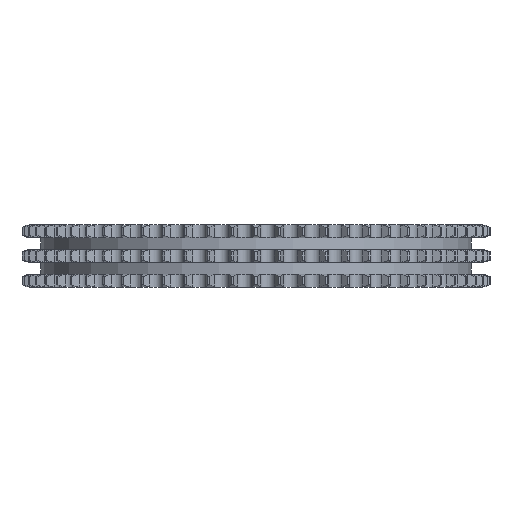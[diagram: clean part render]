
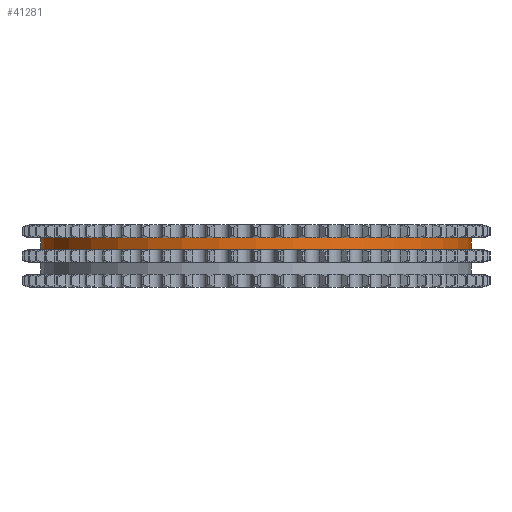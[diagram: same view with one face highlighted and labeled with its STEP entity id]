
A CAD part, left-side view. The second image highlights one B-rep face of the part: STEP entity #41281.
In plain terms, the highlighted cylindrical face has radius 88.029 mm (diameter 176.058 mm), a partial arc.
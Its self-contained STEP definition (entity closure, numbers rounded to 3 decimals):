
#7673=DIRECTION('',(0.,0.,-1.));
#7674=VECTOR('',#7673,4.85);
#7675=CARTESIAN_POINT('',(0.,88.029,7.5));
#7676=LINE('',#7675,#7674);
#7680=CARTESIAN_POINT('',(0.,0.,7.5));
#7681=DIRECTION('',(0.,0.,1.));
#7682=DIRECTION('',(0.,1.,0.));
#7683=AXIS2_PLACEMENT_3D('',#7680,#7681,#7682);
#7688=DIRECTION('',(0.,0.,-1.));
#7689=VECTOR('',#7688,4.85);
#7690=CARTESIAN_POINT('',(0.,-88.029,7.5));
#7691=LINE('',#7690,#7689);
#7695=CARTESIAN_POINT('',(0.,0.,2.65));
#7696=DIRECTION('',(0.,0.,1.));
#7697=DIRECTION('',(0.,1.,0.));
#7698=AXIS2_PLACEMENT_3D('',#7695,#7696,#7697);
#33318=CARTESIAN_POINT('',(0.,88.029,7.5));
#33319=CARTESIAN_POINT('',(0.,88.029,2.65));
#33320=VERTEX_POINT('',#33318);
#33321=VERTEX_POINT('',#33319);
#33322=CARTESIAN_POINT('',(0.,-88.029,7.5));
#33323=CARTESIAN_POINT('',(0.,-88.029,2.65));
#33324=VERTEX_POINT('',#33322);
#33325=VERTEX_POINT('',#33323);
#41269=CARTESIAN_POINT('',(0.,0.,8.25));
#41270=DIRECTION('',(0.,0.,-1.));
#41271=DIRECTION('',(0.,-1.,0.));
#41272=AXIS2_PLACEMENT_3D('',#41269,#41270,#41271);
#41273=CYLINDRICAL_SURFACE('',#41272,88.029);
#41274=ORIENTED_EDGE('',*,*,#41259,.F.);
#41275=ORIENTED_EDGE('',*,*,#41249,.T.);
#41276=ORIENTED_EDGE('',*,*,#41263,.T.);
#41278=ORIENTED_EDGE('',*,*,#41277,.F.);
#41279=EDGE_LOOP('',(#41274,#41275,#41276,#41278));
#41280=FACE_OUTER_BOUND('',#41279,.F.);
#41281=ADVANCED_FACE('',(#41280),#41273,.T.);
#7684=CIRCLE('',#7683,88.029);
#7699=CIRCLE('',#7698,88.029);
#41249=EDGE_CURVE('',#33320,#33324,#7684,.T.);
#41259=EDGE_CURVE('',#33320,#33321,#7676,.T.);
#41263=EDGE_CURVE('',#33324,#33325,#7691,.T.);
#41277=EDGE_CURVE('',#33321,#33325,#7699,.T.);
